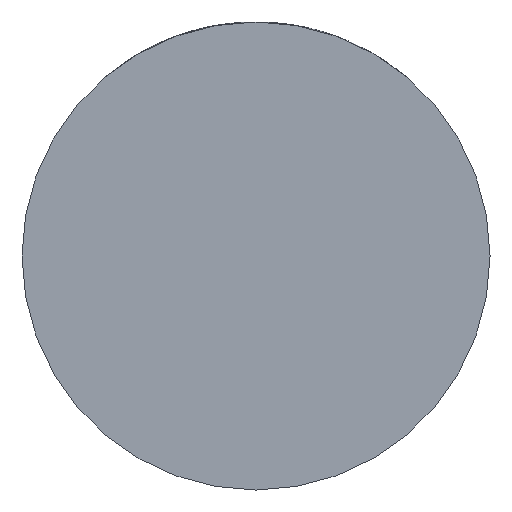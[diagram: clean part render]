
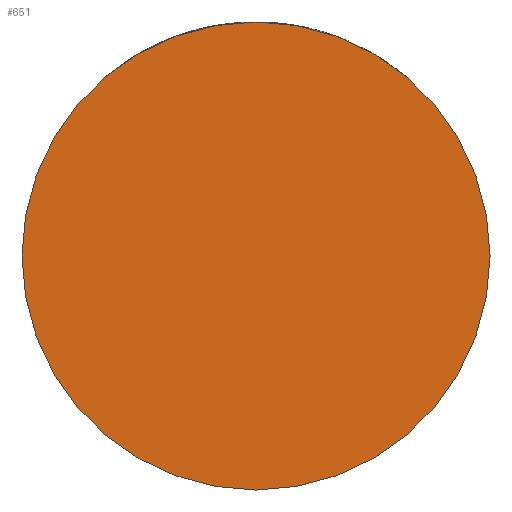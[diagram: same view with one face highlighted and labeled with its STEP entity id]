
A CAD part, front view. The second image highlights one B-rep face of the part: STEP entity #651.
In plain terms, the highlighted planar face has unit normal (0, -1, 0).
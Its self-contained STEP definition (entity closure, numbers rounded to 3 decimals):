
#582 = CIRCLE ( 'NONE', #2911, 32. ) ;
#651 = ADVANCED_FACE ( 'NONE', ( #3487 ), #710, .T. ) ;
#656 = VERTEX_POINT ( 'NONE', #3864 ) ;
#710 = PLANE ( 'NONE',  #3000 ) ;
#780 = EDGE_CURVE ( 'NONE', #656, #1471, #1339, .T. ) ;
#929 = DIRECTION ( 'NONE',  ( 0., -1., 0. ) ) ;
#1077 = DIRECTION ( 'NONE',  ( 0., -1., 0. ) ) ;
#1339 = CIRCLE ( 'NONE', #3589, 32. ) ;
#1471 = VERTEX_POINT ( 'NONE', #2516 ) ;
#1701 = CARTESIAN_POINT ( 'NONE',  ( 0., -28., 0. ) ) ;
#1770 = ORIENTED_EDGE ( 'NONE', *, *, #3812, .T. ) ;
#2185 = DIRECTION ( 'NONE',  ( 1., 0., 0. ) ) ;
#2516 = CARTESIAN_POINT ( 'NONE',  ( 32., -28., 0. ) ) ;
#2871 = EDGE_LOOP ( 'NONE', ( #2956, #1770 ) ) ;
#2911 = AXIS2_PLACEMENT_3D ( 'NONE', #1701, #3719, #4048 ) ;
#2956 = ORIENTED_EDGE ( 'NONE', *, *, #780, .T. ) ;
#3000 = AXIS2_PLACEMENT_3D ( 'NONE', #4199, #1077, #2185 ) ;
#3487 = FACE_OUTER_BOUND ( 'NONE', #2871, .T. ) ;
#3589 = AXIS2_PLACEMENT_3D ( 'NONE', #4034, #929, #3702 ) ;
#3702 = DIRECTION ( 'NONE',  ( 1., 0., 0. ) ) ;
#3719 = DIRECTION ( 'NONE',  ( 0., -1., 0. ) ) ;
#3812 = EDGE_CURVE ( 'NONE', #1471, #656, #582, .T. ) ;
#3864 = CARTESIAN_POINT ( 'NONE',  ( -32., -28., 0. ) ) ;
#4034 = CARTESIAN_POINT ( 'NONE',  ( 0., -28., 0. ) ) ;
#4048 = DIRECTION ( 'NONE',  ( 1., 0., 0. ) ) ;
#4199 = CARTESIAN_POINT ( 'NONE',  ( 0., -28., 0. ) ) ;
